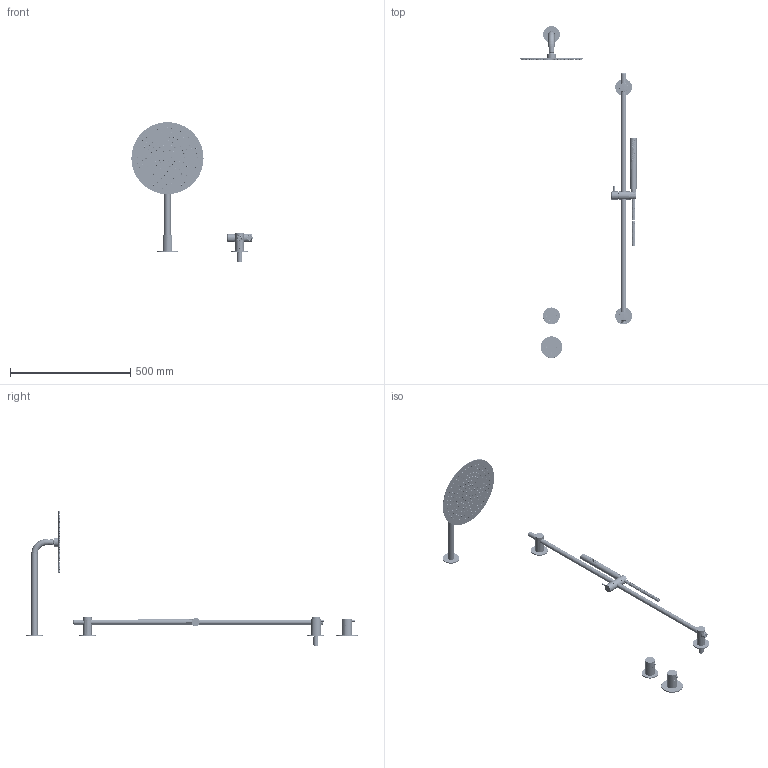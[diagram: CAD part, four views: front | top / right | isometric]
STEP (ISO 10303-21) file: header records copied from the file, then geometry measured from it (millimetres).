
FILE_DESCRIPTION((''),'2;1');
FILE_NAME('57072--_ASM','2025-06-26T14:00:09',('simi1'),(''),'CREO PARAMETRIC BY PTC INC, 2022244','CREO PARAMETRIC BY PTC INC, 2022244','');
FILE_SCHEMA(('CONFIG_CONTROL_DESIGN'));
Products named in the file (121): 46372--_1_1_2_3_4_5; 4396500_1_1_2_3_4_5; 4668000_1_1_2_3_4_5; 46373--_ASM_1_1_2_3_4_5_ASM; 44978--_1_1_2_3_4_5; 4642300_1_1_2_3_4_5; 4498000_1_1_2_3_4_5; 46498--_ASM_1_1_2_3_4_5_ASM; 46022--_1_1_2_3_4_5; 4600600_1_1_2_3_4_5; 1904300_1_1_2_3_4_5; 44986--_1_1_2_3_4_5; 4498800_1_1_2_3_4_5; 44989--_ASM_1_1_2_3_4_5_ASM; 4648800_1_1_2_3_4_5; 4642285_1_1_2_3_4_5; 76709--00_SUB01_ASM_1_1_2_3_4_5_ASM; 46493--_1_1_2_3; 4636100_1_1_2_3_4_5; 46494--_ASM_1_1_2_3_ASM; 4498500_1_1_2_3_4_5; 4653500_1_1_2_3; 46499--_ASM_1_1_2_3_ASM; 44979--_1_1_2_3_4_5; 44987--_1_1_2_3_4_5; 44990--_ASM_1_1_2_3_4_5_ASM; 4498300_1_1_2_3_4_5; 4625100_1_1_2_3_4_5; 76710--00_SUB01_ASM_1_1_2_3_ASM; 46616--_1_1_2_3; 4424300_1_1_2_3_4_5; 46617--_ASM_1_1_2_3_ASM; 46627--_1_1_2_3_4_5; 4443300_1_1_2_3_4_5; 76607--00_SUB01_ASM_1_1_2_3_ASM; P32600-001_2_1_1_2_3_4_5_6; SPRAYPLATE_1_1_2_3_4_5_6; P32500-015_7_1_1_2_3_4_5_6; SPRAYPLATE_ASSY_ASM_1_1_2_3_4_6_ASM; P10100-003_2_1_1_2_3_4_5_6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
Assembly tree (299 placements, depth 7):
  57072--_ASM
    57071--_ASM_1_1_ASM
      76709--00_SUB01_ASM_1_1_2_3_4_5_ASM
        46373--_ASM_1_1_2_3_4_5_ASM
          46372--_1_1_2_3_4_5
          4396500_1_1_2_3_4_5
          4668000_1_1_2_3_4_5
        46498--_ASM_1_1_2_3_4_5_ASM
          44978--_1_1_2_3_4_5
          4642300_1_1_2_3_4_5
          4498000_1_1_2_3_4_5
        44989--_ASM_1_1_2_3_4_5_ASM
          46022--_1_1_2_3_4_5
          4600600_1_1_2_3_4_5
          1904300_1_1_2_3_4_5
          44986--_1_1_2_3_4_5
          4498800_1_1_2_3_4_5
        4648800_1_1_2_3_4_5
        4642285_1_1_2_3_4_5
      76710--00_SUB01_ASM_1_1_2_3_ASM
        46494--_ASM_1_1_2_3_ASM
          46493--_1_1_2_3
          4396500_1_1_2_3_4_5
          4636100_1_1_2_3_4_5
        46499--_ASM_1_1_2_3_ASM
          44978--_1_1_2_3_4_5
          4498500_1_1_2_3_4_5
          4653500_1_1_2_3
        44990--_ASM_1_1_2_3_4_5_ASM
          44979--_1_1_2_3_4_5
          4600600_1_1_2_3_4_5
          44987--_1_1_2_3_4_5
          4498800_1_1_2_3_4_5
        4498300_1_1_2_3_4_5
        4625100_1_1_2_3_4_5
      76607--00_SUB01_ASM_1_1_2_3_ASM
        46617--_ASM_1_1_2_3_ASM
          46616--_1_1_2_3
          4424300_1_1_2_3_4_5
        46627--_1_1_2_3_4_5
        4443300_1_1_2_3_4_5
      91684--00_ASM_1_1_2_3_4_5_ASM
        46672--_ASM_1_1_2_3_4_5_6_ASM
          P42702_ASM_21_ASM_1_1_2_3_4_5_6_ASM
            SPRAYPLATE_ASSY_ASM_1_1_2_3_4_6_ASM
              P32600-001_2_1_1_2_3_4_5_6
              SPRAYPLATE_1_1_2_3_4_5_6
              P32500-015_7_1_1_2_3_4_5_6  x170
            F200-011_ASM_2_ASM_1_1_2_3_4__6_ASM
              P10100-003_2_1_1_2_3_4_5_6
              P24800-010_2_1_1_2_3_4_5_6
              30100069_2_1_1_2_3_4_5_6
            T10367_ASM_1_ASM_1_1_2_3_4_5_6_ASM
              T10364-001_34_1_1_2_3_4_5_6
              P26500-017_4_1_1_2_3_4_5_6
      76685--00_SUB01_ASM_1_1_2_ASM
        4420385_SUB01_ASM_1_1_2_ASM
          4420385_1_1_2
          4449100_1_1_2_3_4_5_6
          4420585_1_1_2_3_4_5
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Bounding box: 504 x 1380 x 581.28 mm (x, y, z)
Volume: 657207.7 mm3; surface area: 874326.5 mm2
Topology: 261 solids, 264 shells, 14791 faces, 41080 edges, 27943 vertices
Faces by surface type: plane 5230, cylinder 4565, torus 2619, cone 1888, bspline 378, sphere 105, extrusion 4, revolution 2
Entity records: 324414 total; most frequent: CARTESIAN_POINT 125760, ORIENTED_EDGE 42824, DIRECTION 39078, EDGE_CURVE 21412, VERTEX_POINT 14247, AXIS2_PLACEMENT_3D 13908, VECTOR 11260, LINE 11256
